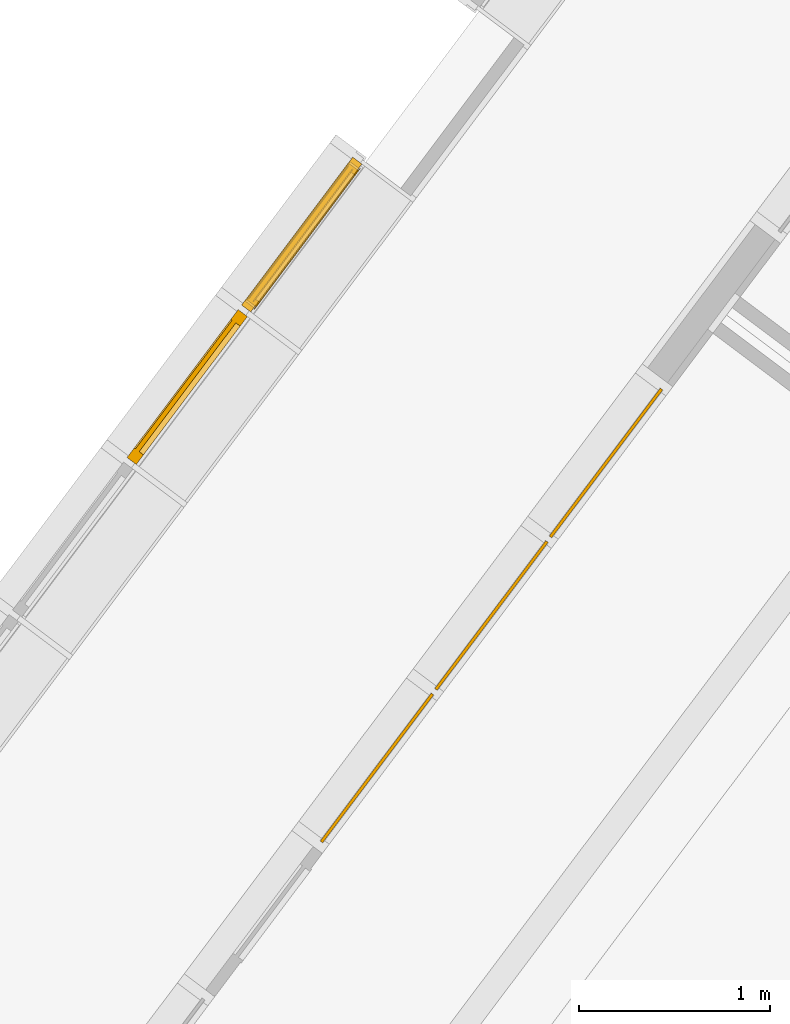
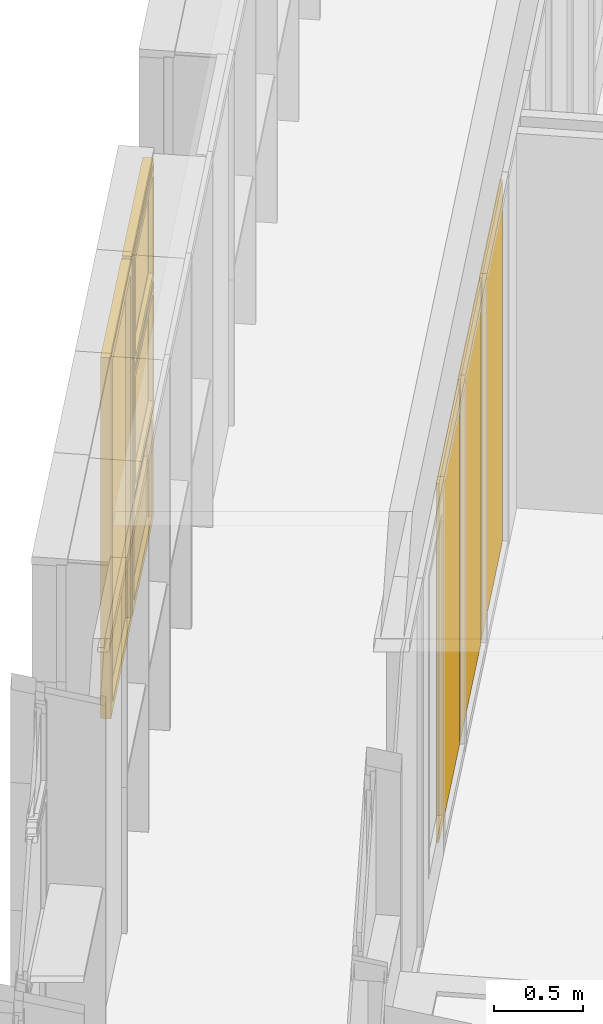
# One storey, part 199 of 243: 7 windows, 2 elements without a shape of their own.
"""IFC2X3 building model written with IfcOpenShell, lengths in metres."""

from ifc_helpers import new_model, entity, si_unit, converted_unit, derived_unit, direction, frame, origin, origin_2d_with_axis, place, context, subcontext, project, spatial, rectangle, extrude, faceted_brep, source, transform, mapped, material, material_list, type_object, type_shapes, element, aggregate, save


model = new_model("IFC2X3")

# Units and contexts
model_context = context("Model", 3, precision=1e-05, world=origin(), true_north=direction((6.123031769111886e-17, 1.0)))
body_context = subcontext(model_context, "Body", "Model", "MODEL_VIEW")
ifc_project = project(units=[si_unit("LENGTHUNIT", "METRE"), si_unit("AREAUNIT", "SQUARE_METRE"), si_unit("VOLUMEUNIT", "CUBIC_METRE"), converted_unit("PLANEANGLEUNIT", "DEGREE", entity("IfcRatioMeasure", 0.017453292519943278), si_unit("PLANEANGLEUNIT", "RADIAN"), dimensions=[0, 0, 0, 0, 0, 0, 0]), si_unit("MASSUNIT", "GRAM", prefix="KILO"), derived_unit("MASSDENSITYUNIT", [(si_unit("MASSUNIT", "GRAM", prefix="KILO"), 1), (si_unit("LENGTHUNIT", "METRE"), -3)]), derived_unit("IONCONCENTRATIONUNIT", [(si_unit("MASSUNIT", "GRAM", prefix="KILO"), 1), (si_unit("LENGTHUNIT", "METRE"), -3)]), derived_unit("MOMENTOFINERTIAUNIT", [(si_unit("LENGTHUNIT", "METRE"), 4)]), si_unit("TIMEUNIT", "SECOND"), si_unit("FREQUENCYUNIT", "HERTZ"), si_unit("THERMODYNAMICTEMPERATUREUNIT", "DEGREE_CELSIUS"), derived_unit("THERMALTRANSMITTANCEUNIT", [(si_unit("MASSUNIT", "GRAM", prefix="KILO"), 1), (si_unit("THERMODYNAMICTEMPERATUREUNIT", "KELVIN"), -1), (si_unit("TIMEUNIT", "SECOND"), -3)]), derived_unit("THERMALCONDUCTANCEUNIT", [(si_unit("MASSUNIT", "GRAM", prefix="KILO"), 1), (si_unit("THERMODYNAMICTEMPERATUREUNIT", "KELVIN"), -1), (si_unit("TIMEUNIT", "SECOND"), -3), (si_unit("LENGTHUNIT", "METRE"), 1)]), derived_unit("VOLUMETRICFLOWRATEUNIT", [(si_unit("LENGTHUNIT", "METRE"), 3), (si_unit("TIMEUNIT", "SECOND"), -1)]), derived_unit("MASSFLOWRATEUNIT", [(si_unit("MASSUNIT", "GRAM", prefix="KILO"), 1), (si_unit("TIMEUNIT", "SECOND"), -1)]), derived_unit("ROTATIONALFREQUENCYUNIT", [(si_unit("TIMEUNIT", "SECOND"), -1)]), si_unit("ELECTRICCURRENTUNIT", "AMPERE"), si_unit("ELECTRICVOLTAGEUNIT", "VOLT"), si_unit("POWERUNIT", "WATT"), si_unit("FORCEUNIT", "NEWTON", prefix="KILO"), si_unit("ILLUMINANCEUNIT", "LUX"), si_unit("LUMINOUSFLUXUNIT", "LUMEN"), si_unit("LUMINOUSINTENSITYUNIT", "CANDELA"), derived_unit("USERDEFINED", [(si_unit("MASSUNIT", "GRAM", prefix="KILO"), -1), (si_unit("LENGTHUNIT", "METRE"), -2), (si_unit("TIMEUNIT", "SECOND"), 3), (si_unit("LUMINOUSFLUXUNIT", "LUMEN"), 1)]), derived_unit("USERDEFINED", [(si_unit("MASSUNIT", "GRAM", prefix="KILO"), 1), (si_unit("TIMEUNIT", "SECOND"), -3), (si_unit("LENGTHUNIT", "METRE"), 3), (si_unit("ELECTRICCURRENTUNIT", "AMPERE"), -2)]), derived_unit("SOUNDPOWERUNIT", [(si_unit("MASSUNIT", "GRAM", prefix="KILO"), 1), (si_unit("TIMEUNIT", "SECOND"), -3), (si_unit("LENGTHUNIT", "METRE"), 2)]), derived_unit("SOUNDPRESSUREUNIT", [(si_unit("MASSUNIT", "GRAM", prefix="KILO"), 1), (si_unit("LENGTHUNIT", "METRE"), -1), (si_unit("TIMEUNIT", "SECOND"), -2)]), derived_unit("LINEARVELOCITYUNIT", [(si_unit("LENGTHUNIT", "METRE"), 1), (si_unit("TIMEUNIT", "SECOND"), -1)]), si_unit("PRESSUREUNIT", "PASCAL"), derived_unit("USERDEFINED", [(si_unit("MASSUNIT", "GRAM", prefix="KILO"), 1), (si_unit("LENGTHUNIT", "METRE"), -2), (si_unit("TIMEUNIT", "SECOND"), -2)]), derived_unit("LINEARFORCEUNIT", [(si_unit("MASSUNIT", "GRAM", prefix="KILO"), 1), (si_unit("TIMEUNIT", "SECOND"), -2)]), derived_unit("PLANARFORCEUNIT", [(si_unit("MASSUNIT", "GRAM", prefix="KILO"), 1), (si_unit("LENGTHUNIT", "METRE"), -1), (si_unit("TIMEUNIT", "SECOND"), -2)]), derived_unit("SPECIFICHEATCAPACITYUNIT", [(si_unit("THERMODYNAMICTEMPERATUREUNIT", "KELVIN"), -1), (si_unit("LENGTHUNIT", "METRE"), 2), (si_unit("TIMEUNIT", "SECOND"), -2)]), derived_unit("HEATINGVALUEUNIT", [(si_unit("LENGTHUNIT", "METRE"), 2), (si_unit("TIMEUNIT", "SECOND"), -2)]), derived_unit("VAPORPERMEABILITYUNIT", [(si_unit("LENGTHUNIT", "METRE"), -1), (si_unit("TIMEUNIT", "SECOND"), 1)]), derived_unit("DYNAMICVISCOSITYUNIT", [(si_unit("MASSUNIT", "GRAM", prefix="KILO"), 1), (si_unit("TIMEUNIT", "SECOND"), -1), (si_unit("LENGTHUNIT", "METRE"), -1)]), derived_unit("THERMALEXPANSIONCOEFFICIENTUNIT", [(si_unit("THERMODYNAMICTEMPERATUREUNIT", "KELVIN"), -1)]), derived_unit("MODULUSOFELASTICITYUNIT", [(si_unit("MASSUNIT", "GRAM", prefix="KILO"), 1), (si_unit("LENGTHUNIT", "METRE"), -1), (si_unit("TIMEUNIT", "SECOND"), -2)]), derived_unit("ISOTHERMALMOISTURECAPACITYUNIT", [(si_unit("LENGTHUNIT", "METRE"), 3), (si_unit("MASSUNIT", "GRAM", prefix="KILO"), -1)]), derived_unit("MOISTUREDIFFUSIVITYUNIT", [(si_unit("TIMEUNIT", "SECOND"), -1), (si_unit("LENGTHUNIT", "METRE"), 2)])], contexts=[model_context])

# Site, building, storey
site_placement = place(None, frame((0.0, 0.0, 235.0), z_axis=(0.0, 0.0, 1.0), x_axis=(-0.7996477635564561, 0.6004693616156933, 0.0)))
site = spatial("IfcSite", under=ifc_project, at=site_placement, Name="Default", CompositionType="ELEMENT")
building_placement = place(site_placement, origin())
building = spatial("IfcBuilding", under=site, at=building_placement, CompositionType="ELEMENT")
storey_placement = place(building_placement, origin())
storey = spatial("IfcBuildingStorey", under=building, at=storey_placement, Name="P0- Escola", CompositionType="ELEMENT", Elevation=0.0)

# Curtain wall, windows
curtain_wall_type_1 = type_object("IfcCurtainWallType", Name="Muro cortina:MC- INT- a1", PredefinedType="NOTDEFINED")
curtain_wall_1_placement = place(storey_placement, origin())
curtain_wall_1 = element("IfcCurtainWall", 1, at=curtain_wall_1_placement, inside=storey, type_object=curtain_wall_type_1, Name="Muro cortina:MC- INT- a1", ObjectType="Muro cortina:MC- INT- a1")
ifc_material_1 = material(Name="_Vidre")
window_style_1 = type_object("IfcWindowStyle", Name="MC- Fusta- vidre fix:MC- Fusta- vidre fix", ConstructionType="NOTDEFINED", OperationType="NOTDEFINED", ParameterTakesPrecedence=False, Sizeable=False, material=ifc_material_1)
shared_shape_1 = source(origin(), body_context, "Body", "SweptSolid", [
    extrude(rectangle(XDim=0.9699999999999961, YDim=0.015999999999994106, at=origin_2d_with_axis()), frame((0.0, 0.0, 0.0), z_axis=(0.0, 0.0, 1.0), x_axis=(-1.0, 0.0, 0.0)), (0.0, 0.0, 1.0), 2.475),
])
type_shapes(window_style_1, [shared_shape_1])
window_1_placement = place(curtain_wall_1_placement, frame((72.720147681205, -27.915189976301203, 0.045000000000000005), z_axis=(0.0, 0.0, 1.0), x_axis=(0.0, -1.0, 0.0)))
window_1 = element("IfcWindow", 2, at=window_1_placement, type_object=window_style_1, material=ifc_material_1, Name="MC- Fusta- vidre fix:MC- Fusta- vidre fix", ObjectType="MC- Fusta- vidre fix:MC- Fusta- vidre fix", OverallHeight=2.475, OverallWidth=0.9699999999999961, context=body_context, shape_type="MappedRepresentation", body=[
    mapped(shared_shape_1, transform((0.0, 0.0, 0.0), scale=1.0)),
])
window_2_placement = place(curtain_wall_1_placement, frame((72.720147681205, -28.915189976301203, 0.045000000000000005), z_axis=(0.0, 0.0, 1.0), x_axis=(0.0, -1.0, 0.0)))
window_2 = element("IfcWindow", 3, at=window_2_placement, type_object=window_style_1, material=ifc_material_1, Name="MC- Fusta- vidre fix:MC- Fusta- vidre fix", ObjectType="MC- Fusta- vidre fix:MC- Fusta- vidre fix", OverallHeight=2.475, OverallWidth=0.9699999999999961, context=body_context, shape_type="MappedRepresentation", body=[
    mapped(shared_shape_1, transform((0.0, 0.0, 0.0), scale=1.0)),
])
window_style_2 = type_object("IfcWindowStyle", Name="MC- Fusta- vidre fix:MC- Fusta- vidre fix", ConstructionType="NOTDEFINED", OperationType="NOTDEFINED", ParameterTakesPrecedence=False, Sizeable=False, material=ifc_material_1)
shared_shape_2 = source(origin(), body_context, "Body", "SweptSolid", [
    extrude(rectangle(XDim=0.9699999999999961, YDim=0.015999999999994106, at=origin_2d_with_axis()), frame((0.0, 0.0, 0.0), z_axis=(0.0, 0.0, 1.0), x_axis=(-1.0, 0.0, 0.0)), (0.0, 0.0, 1.0), 2.46),
])
type_shapes(window_style_2, [shared_shape_2])
window_3_placement = place(curtain_wall_1_placement, frame((72.720147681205, -26.915189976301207, 0.045000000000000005), z_axis=(0.0, 0.0, 1.0), x_axis=(0.0, -1.0, 0.0)))
window_3 = element("IfcWindow", 4, at=window_3_placement, type_object=window_style_2, material=ifc_material_1, Name="MC- Fusta- vidre fix:MC- Fusta- vidre fix", ObjectType="MC- Fusta- vidre fix:MC- Fusta- vidre fix", OverallHeight=2.46, OverallWidth=0.9699999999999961, context=body_context, shape_type="MappedRepresentation", body=[
    mapped(shared_shape_2, transform((0.0, 0.0, 0.0), scale=1.0)),
])
aggregate(curtain_wall_1, [window_3, window_1, window_2])

curtain_wall_type_2 = type_object("IfcCurtainWallType", Name="Muro cortina:MC- EXT- MC5", PredefinedType="NOTDEFINED")
curtain_wall_2_placement = place(storey_placement, origin())
curtain_wall_2 = element("IfcCurtainWall", 5, at=curtain_wall_2_placement, inside=storey, type_object=curtain_wall_type_2, Name="Muro cortina:MC- EXT- MC5", ObjectType="Muro cortina:MC- EXT- MC5")
ifc_material_2 = material(Name="_Alumini- T1- Perfil")
ifc_material_list = material_list([ifc_material_1, ifc_material_2])
window_style_3 = type_object("IfcWindowStyle", Name="MC- Alu- Conjunt vidre fix- 62x60 cm:MC- Alu- Conjunt vidre fix- 62x60 cm", ConstructionType="NOTDEFINED", OperationType="NOTDEFINED", ParameterTakesPrecedence=False, Sizeable=False, material=ifc_material_list)
shared_shape_3 = source(origin(), body_context, "Body", "Brep", [
    faceted_brep([(-0.43619328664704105, -0.007600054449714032, 0.048806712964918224), (0.43619328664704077, -0.007600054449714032, 0.048806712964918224), (0.43619328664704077, -0.03160022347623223, 0.048806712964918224), (-0.43619328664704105, -0.03160022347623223, 0.048806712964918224), (-0.43619328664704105, -0.007600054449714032, 2.422449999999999), (0.43619328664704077, -0.007600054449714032, 2.422449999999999), (0.43619328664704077, -0.03160022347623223, 2.422449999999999), (-0.43619328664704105, -0.03160022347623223, 2.422449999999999)], [[[0, 1, 2, 3]], [[4, 5, 1, 0]], [[5, 6, 2, 1]], [[6, 7, 3, 2]], [[7, 4, 0, 3]], [[4, 7, 6, 5]]]),
    faceted_brep([(-0.4849999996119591, -0.05999999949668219, 2.471449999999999), (-0.4849999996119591, 0.0, 2.471449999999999), (-0.4849999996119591, 0.0, 0.0), (-0.48499999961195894, -0.05999999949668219, 0.0), (-0.4221931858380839, 0.0, 2.408643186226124), (-0.4221931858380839, 0.0, 0.06280681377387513), (0.42219318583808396, 0.0, 0.06280681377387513), (0.422193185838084, 0.0, 2.408643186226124), (0.4849999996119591, 0.0, 2.471449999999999), (0.4849999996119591, 0.0, 0.0), (0.48499999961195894, -0.05999999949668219, 0.0), (0.4849999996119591, -0.05999999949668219, 2.471449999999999), (0.42219603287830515, -0.05999999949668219, 2.408646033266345), (0.42219603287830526, -0.05999999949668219, 0.06280396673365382), (-0.42219603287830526, -0.05999999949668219, 0.06280396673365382), (-0.42219603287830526, -0.05999999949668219, 2.4086460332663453), (-0.42219603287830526, -0.03160022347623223, 2.4086460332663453), (-0.4221960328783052, -0.03160022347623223, 0.06280396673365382), (0.4221960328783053, -0.03160022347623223, 0.06280396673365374), (0.42219603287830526, -0.03160022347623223, 2.4086460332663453), (0.43619328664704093, -0.03160022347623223, 2.422643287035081), (0.43619328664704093, -0.03160022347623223, 0.048806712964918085), (-0.4361932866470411, -0.03160022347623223, 0.04880671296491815), (-0.43619328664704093, -0.03160022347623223, 2.422643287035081), (-0.43619328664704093, -0.007600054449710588, 2.422643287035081), (-0.4361932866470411, -0.007600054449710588, 0.04880671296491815), (0.43619328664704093, -0.007600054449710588, 0.048806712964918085), (0.43619328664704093, -0.007600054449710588, 2.422643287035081), (0.42219318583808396, -0.007600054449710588, 2.408643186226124), (0.42219318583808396, -0.007600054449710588, 0.06280681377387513), (-0.42219318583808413, -0.007600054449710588, 0.06280681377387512), (-0.4221931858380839, -0.007600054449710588, 2.408643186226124)], [[[0, 1, 2, 3]], [[4, 5, 6, 7], [8, 9, 2, 1]], [[3, 2, 9, 10]], [[0, 3, 10, 11], [12, 13, 14, 15]], [[16, 15, 14, 17]], [[17, 14, 13, 18]], [[16, 17, 18, 19], [20, 21, 22, 23]], [[24, 23, 22, 25]], [[25, 22, 21, 26]], [[24, 25, 26, 27], [28, 29, 30, 31]], [[4, 31, 30, 5]], [[5, 30, 29, 6]], [[10, 9, 8, 11]], [[18, 13, 12, 19]], [[26, 21, 20, 27]], [[6, 29, 28, 7]], [[11, 8, 1, 0]], [[19, 12, 15, 16]], [[27, 20, 23, 24]], [[7, 28, 31, 4]]], outer=[[True], [False, True], [True], [True, False], [True], [True], [False, True], [True], [True], [True, False], [True], [True], [True], [True], [True], [True], [True], [True], [True], [True]]),
])
type_shapes(window_style_3, [shared_shape_3])
window_4_placement = place(curtain_wall_2_placement, frame((74.7451476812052, -27.915191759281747, 0.03229999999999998), z_axis=(0.0, 0.0, 1.0), x_axis=(0.0, -1.0, 0.0)))
window_4 = element("IfcWindow", 6, at=window_4_placement, type_object=window_style_3, material=ifc_material_list, Name="MC- Alu- Conjunt vidre fix- 62x60 cm:MC- Alu- Conjunt vidre fix- 62x60 cm", ObjectType="MC- Alu- Conjunt vidre fix- 62x60 cm:MC- Alu- Conjunt vidre fix- 62x60 cm", OverallHeight=2.471449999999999, OverallWidth=0.9699999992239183, context=body_context, shape_type="MappedRepresentation", body=[
    mapped(shared_shape_3, transform((0.0, 0.0, 0.0), scale=1.0)),
])
window_style_4 = type_object("IfcWindowStyle", Name="MC- Alu- Conjunt vidre fix- 62x60 cm:MC- Alu- Conjunt vidre fix- 62x60 cm", ConstructionType="NOTDEFINED", OperationType="NOTDEFINED", ParameterTakesPrecedence=False, Sizeable=False, material=ifc_material_list)
shared_shape_4 = source(origin(), body_context, "Body", "Brep", [
    faceted_brep([(-0.43619328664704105, -0.007600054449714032, 0.048806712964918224), (0.43619328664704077, -0.007600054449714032, 0.048806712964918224), (0.43619328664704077, -0.03160022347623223, 0.048806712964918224), (-0.43619328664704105, -0.03160022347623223, 0.048806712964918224), (-0.43619328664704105, -0.007600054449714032, 0.7387000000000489), (0.43619328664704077, -0.007600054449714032, 0.7387000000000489), (0.43619328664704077, -0.03160022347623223, 0.7387000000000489), (-0.43619328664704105, -0.03160022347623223, 0.7387000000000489)], [[[0, 1, 2, 3]], [[4, 5, 1, 0]], [[5, 6, 2, 1]], [[6, 7, 3, 2]], [[7, 4, 0, 3]], [[4, 7, 6, 5]]]),
    faceted_brep([(-0.4849999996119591, -0.05999999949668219, 0.7877000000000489), (-0.4849999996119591, 0.0, 0.7877000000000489), (-0.4849999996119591, 0.0, 0.0), (-0.4849999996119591, -0.05999999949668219, 0.0), (-0.422193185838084, 0.0, 0.7248931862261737), (-0.4221931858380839, 0.0, 0.06280681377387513), (0.42219318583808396, 0.0, 0.06280681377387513), (0.42219318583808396, 0.0, 0.7248931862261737), (0.4849999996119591, 0.0, 0.7877000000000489), (0.4849999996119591, 0.0, 0.0), (0.4849999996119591, -0.05999999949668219, 0.0), (0.4849999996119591, -0.05999999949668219, 0.7877000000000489), (0.4221960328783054, -0.05999999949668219, 0.7248960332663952), (0.4221960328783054, -0.05999999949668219, 0.0628039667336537), (-0.4221960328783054, -0.05999999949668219, 0.0628039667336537), (-0.4221960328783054, -0.05999999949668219, 0.7248960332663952), (-0.4221960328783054, -0.03160022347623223, 0.7248960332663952), (-0.4221960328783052, -0.03160022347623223, 0.06280396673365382), (0.4221960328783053, -0.03160022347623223, 0.06280396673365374), (0.42219603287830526, -0.03160022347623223, 0.7248960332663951), (0.43619328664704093, -0.03160022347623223, 0.7388932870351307), (0.43619328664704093, -0.03160022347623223, 0.048806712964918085), (-0.43619328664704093, -0.03160022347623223, 0.04880671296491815), (-0.43619328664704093, -0.03160022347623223, 0.7388932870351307), (-0.43619328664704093, -0.007600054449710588, 0.7388932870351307), (-0.43619328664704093, -0.007600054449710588, 0.04880671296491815), (0.43619328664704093, -0.007600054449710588, 0.048806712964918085), (0.43619328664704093, -0.007600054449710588, 0.7388932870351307), (0.42219318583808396, -0.007600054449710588, 0.7248931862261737), (0.42219318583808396, -0.007600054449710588, 0.06280681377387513), (-0.42219318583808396, -0.007600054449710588, 0.06280681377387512), (-0.42219318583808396, -0.007600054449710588, 0.7248931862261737)], [[[0, 1, 2, 3]], [[4, 5, 6, 7], [8, 9, 2, 1]], [[3, 2, 9, 10]], [[0, 3, 10, 11], [12, 13, 14, 15]], [[16, 15, 14, 17]], [[17, 14, 13, 18]], [[16, 17, 18, 19], [20, 21, 22, 23]], [[24, 23, 22, 25]], [[25, 22, 21, 26]], [[24, 25, 26, 27], [28, 29, 30, 31]], [[4, 31, 30, 5]], [[5, 30, 29, 6]], [[10, 9, 8, 11]], [[18, 13, 12, 19]], [[26, 21, 20, 27]], [[6, 29, 28, 7]], [[11, 8, 1, 0]], [[19, 12, 15, 16]], [[27, 20, 23, 24]], [[7, 28, 31, 4]]], outer=[[True], [False, True], [True], [True, False], [True], [True], [False, True], [True], [True], [True, False], [True], [True], [True], [True], [True], [True], [True], [True], [True], [True]]),
])
type_shapes(window_style_4, [shared_shape_4])
window_5_placement = place(curtain_wall_2_placement, frame((74.74514768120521, -28.915191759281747, 0.03229999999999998), z_axis=(0.0, 0.0, 1.0), x_axis=(0.0, -1.0, 0.0)))
window_5 = element("IfcWindow", 7, at=window_5_placement, type_object=window_style_4, material=ifc_material_list, Name="MC- Alu- Conjunt vidre fix- 62x60 cm:MC- Alu- Conjunt vidre fix- 62x60 cm", ObjectType="MC- Alu- Conjunt vidre fix- 62x60 cm:MC- Alu- Conjunt vidre fix- 62x60 cm", OverallHeight=0.7877000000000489, OverallWidth=0.9699999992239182, context=body_context, shape_type="MappedRepresentation", body=[
    mapped(shared_shape_4, transform((0.0, 0.0, 0.0), scale=1.0)),
])
window_style_5 = type_object("IfcWindowStyle", Name="MC- Alu- Conjunt finestra basculant- 68x68 cm:MC- Alu- Conjunt finestra basculant- 68x68 cm", ConstructionType="NOTDEFINED", OperationType="NOTDEFINED", ParameterTakesPrecedence=False, Sizeable=False, material=ifc_material_list)
shared_shape_5 = source(origin(), body_context, "Body", "Brep", [
    faceted_brep([(-0.43291170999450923, -0.03559830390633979, 0.051999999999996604), (-0.43291170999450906, -0.011598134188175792, 0.051999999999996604), (0.43291170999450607, -0.011598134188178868, 0.051999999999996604), (0.43291170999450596, -0.03559830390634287, 0.051999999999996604), (-0.43291170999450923, -0.03559830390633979, 0.8228027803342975), (-0.4329117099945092, -0.011598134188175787, 0.8228027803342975), (0.43291170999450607, -0.011598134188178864, 0.8228027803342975), (0.43291170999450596, -0.03559830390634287, 0.8228027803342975)], [[[0, 1, 2, 3]], [[4, 5, 1, 0]], [[5, 6, 2, 1]], [[6, 7, 3, 2]], [[7, 4, 0, 3]], [[4, 7, 6, 5]]]),
    faceted_brep([(0.4172108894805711, -0.009998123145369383, 0.8071019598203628), (0.4172108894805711, -0.007998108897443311, 0.8071019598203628), (0.4172108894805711, -0.007998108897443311, 0.06789804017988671), (0.4172108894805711, -0.009998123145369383, 0.06789804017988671), (0.44610892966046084, -0.007998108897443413, 0.8360000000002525), (0.44610892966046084, -0.007998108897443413, 0.03899999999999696), (-0.44610892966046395, -0.007998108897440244, 0.03899999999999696), (-0.44610892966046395, -0.007998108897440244, 0.8360000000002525), (-0.4172108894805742, -0.007998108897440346, 0.8071019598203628), (-0.4172108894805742, -0.007998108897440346, 0.06789804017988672), (-0.4172108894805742, -0.009998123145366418, 0.06789804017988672), (-0.4172108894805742, -0.009998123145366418, 0.8071019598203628), (-0.4329117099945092, -0.00999812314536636, 0.8228027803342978), (-0.4329117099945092, -0.009998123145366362, 0.05219721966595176), (0.43291170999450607, -0.009998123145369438, 0.052197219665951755), (0.43291170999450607, -0.009998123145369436, 0.8228027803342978), (0.4329117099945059, -0.04079986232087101, 0.8228027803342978), (0.4329117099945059, -0.04079986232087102, 0.052197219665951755), (-0.4329117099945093, -0.04079986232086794, 0.05219721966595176), (-0.4329117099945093, -0.04079986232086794, 0.8228027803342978), (-0.41721088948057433, -0.040799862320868, 0.8071019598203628), (-0.41721088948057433, -0.040799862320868, 0.06789804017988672), (0.41721088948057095, -0.04079986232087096, 0.06789804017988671), (0.41721088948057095, -0.04079986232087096, 0.8071019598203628), (0.41721088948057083, -0.06800005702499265, 0.8071019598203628), (0.4172108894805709, -0.06800005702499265, 0.06789804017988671), (-0.4172108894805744, -0.0680000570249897, 0.06789804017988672), (-0.4172108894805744, -0.0680000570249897, 0.8071019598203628), (-0.4636128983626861, -0.06800005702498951, 0.8535039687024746), (-0.4636128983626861, -0.06800005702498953, 0.021496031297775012), (0.4636128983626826, -0.06800005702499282, 0.021496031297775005), (0.4636128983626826, -0.06800005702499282, 0.8535039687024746), (0.4636128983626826, -0.0645000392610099, 0.8535039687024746), (0.4636128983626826, -0.0645000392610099, 0.021496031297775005), (-0.4636128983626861, -0.06450003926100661, 0.021496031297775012), (-0.4636128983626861, -0.06450003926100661, 0.8535039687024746), (-0.44610892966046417, -0.06450003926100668, 0.8360000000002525), (-0.44610892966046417, -0.06450003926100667, 0.03899999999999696), (0.4461089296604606, -0.06450003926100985, 0.038999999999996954), (0.4461089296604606, -0.06450003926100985, 0.8360000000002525)], [[[0, 1, 2, 3]], [[4, 5, 6, 7], [8, 9, 2, 1]], [[3, 2, 9, 10]], [[0, 3, 10, 11], [12, 13, 14, 15]], [[16, 15, 14, 17]], [[17, 14, 13, 18]], [[16, 17, 18, 19], [20, 21, 22, 23]], [[24, 23, 22, 25]], [[25, 22, 21, 26]], [[24, 25, 26, 27], [28, 29, 30, 31]], [[32, 31, 30, 33]], [[33, 30, 29, 34]], [[32, 33, 34, 35], [36, 37, 38, 39]], [[4, 39, 38, 5]], [[5, 38, 37, 6]], [[10, 9, 8, 11]], [[18, 13, 12, 19]], [[26, 21, 20, 27]], [[34, 29, 28, 35]], [[6, 37, 36, 7]], [[11, 8, 1, 0]], [[19, 12, 15, 16]], [[27, 20, 23, 24]], [[35, 28, 31, 32]], [[7, 36, 39, 4]]], outer=[[True], [True, False], [True], [False, True], [True], [True], [True, False], [True], [True], [False, True], [True], [True], [True, False], [True], [True], [True], [True], [True], [True], [True], [True], [True], [True], [True], [True]]),
    faceted_brep([(-0.42219318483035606, 0.0, 0.8121931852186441), (-0.42219318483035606, -0.0040000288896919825, 0.8121931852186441), (-0.422193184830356, -0.0040000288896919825, 0.06280681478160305), (-0.42219318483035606, 0.0, 0.06280681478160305), (-0.4575998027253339, -0.0040000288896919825, 0.847599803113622), (-0.4575998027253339, -0.0040000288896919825, 0.027400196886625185), (0.4575998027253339, -0.0040000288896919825, 0.027400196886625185), (0.4575998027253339, -0.0040000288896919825, 0.847599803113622), (0.422193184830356, -0.0040000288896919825, 0.812193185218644), (0.42219318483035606, -0.0040000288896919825, 0.06280681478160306), (0.42219318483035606, 0.0, 0.06280681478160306), (0.42219318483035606, 0.0, 0.8121931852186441), (0.4849999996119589, 0.0, 0.8750000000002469), (0.48499999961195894, 0.0, 0.0), (-0.4849999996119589, 0.0, 0.0), (-0.48499999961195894, 0.0, 0.8750000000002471), (-0.48499999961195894, -0.05999999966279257, 0.8750000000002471), (-0.48499999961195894, -0.05999999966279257, 0.0), (0.48499999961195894, -0.05999999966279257, 0.0), (0.48499999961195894, -0.05999999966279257, 0.8750000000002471), (0.45759980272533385, -0.05999999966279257, 0.8475998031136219), (0.4575998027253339, -0.05999999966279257, 0.027400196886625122), (-0.45759980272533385, -0.05999999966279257, 0.027400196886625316), (-0.4575998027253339, -0.05999999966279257, 0.847599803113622)], [[[0, 1, 2, 3]], [[4, 5, 6, 7], [8, 9, 2, 1]], [[3, 2, 9, 10]], [[0, 3, 10, 11], [12, 13, 14, 15]], [[16, 15, 14, 17]], [[17, 14, 13, 18]], [[16, 17, 18, 19], [20, 21, 22, 23]], [[4, 23, 22, 5]], [[5, 22, 21, 6]], [[10, 9, 8, 11]], [[18, 13, 12, 19]], [[6, 21, 20, 7]], [[11, 8, 1, 0]], [[19, 12, 15, 16]], [[7, 20, 23, 4]]], outer=[[True], [True, False], [True], [False, True], [True], [True], [True, False], [True], [True], [True], [True], [True], [True], [True], [True]]),
])
type_shapes(window_style_5, [shared_shape_5])
window_6_placement = place(curtain_wall_2_placement, frame((74.74514768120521, -28.915191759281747, 0.8200000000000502), z_axis=(0.0, 0.0, 1.0), x_axis=(0.0, -1.0, 0.0)))
window_6 = element("IfcWindow", 8, at=window_6_placement, type_object=window_style_5, material=ifc_material_list, Name="MC- Alu- Conjunt finestra basculant- 68x68 cm:MC- Alu- Conjunt finestra basculant- 68x68 cm", ObjectType="MC- Alu- Conjunt finestra basculant- 68x68 cm:MC- Alu- Conjunt finestra basculant- 68x68 cm", OverallHeight=0.8750000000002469, OverallWidth=0.9699999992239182, context=body_context, shape_type="MappedRepresentation", body=[
    mapped(shared_shape_5, transform((0.0, 0.0, 0.0), scale=1.0)),
])
window_style_6 = type_object("IfcWindowStyle", Name="MC- Alu- Conjunt finestra basculant- 68x68 cm:MC- Alu- Conjunt finestra basculant- 68x68 cm", ConstructionType="NOTDEFINED", OperationType="NOTDEFINED", ParameterTakesPrecedence=False, Sizeable=False, material=ifc_material_list)
shared_shape_6 = source(origin(), body_context, "Body", "Brep", [
    faceted_brep([(-0.43291170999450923, -0.03559830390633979, 0.051999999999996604), (-0.43291170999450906, -0.011598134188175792, 0.051999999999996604), (0.43291170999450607, -0.011598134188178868, 0.051999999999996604), (0.43291170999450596, -0.03559830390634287, 0.051999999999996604), (-0.43291170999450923, -0.03559830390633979, 0.7565527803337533), (-0.4329117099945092, -0.011598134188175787, 0.7565527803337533), (0.43291170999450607, -0.011598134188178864, 0.7565527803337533), (0.43291170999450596, -0.03559830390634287, 0.7565527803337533)], [[[0, 1, 2, 3]], [[4, 5, 1, 0]], [[5, 6, 2, 1]], [[6, 7, 3, 2]], [[7, 4, 0, 3]], [[4, 7, 6, 5]]]),
    faceted_brep([(0.4172108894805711, -0.009998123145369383, 0.7408519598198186), (0.4172108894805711, -0.007998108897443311, 0.7408519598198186), (0.4172108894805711, -0.007998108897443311, 0.06789804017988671), (0.4172108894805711, -0.009998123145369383, 0.06789804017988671), (0.44610892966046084, -0.007998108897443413, 0.7697499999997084), (0.44610892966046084, -0.007998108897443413, 0.03899999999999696), (-0.44610892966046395, -0.007998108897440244, 0.03899999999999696), (-0.44610892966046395, -0.007998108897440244, 0.7697499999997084), (-0.4172108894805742, -0.007998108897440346, 0.7408519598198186), (-0.4172108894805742, -0.007998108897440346, 0.06789804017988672), (-0.4172108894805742, -0.009998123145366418, 0.06789804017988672), (-0.4172108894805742, -0.009998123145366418, 0.7408519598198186), (-0.4329117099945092, -0.00999812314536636, 0.7565527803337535), (-0.4329117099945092, -0.009998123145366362, 0.05219721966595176), (0.43291170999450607, -0.009998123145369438, 0.052197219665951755), (0.43291170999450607, -0.009998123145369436, 0.7565527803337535), (0.4329117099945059, -0.04079986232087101, 0.7565527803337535), (0.4329117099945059, -0.04079986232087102, 0.052197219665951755), (-0.4329117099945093, -0.04079986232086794, 0.05219721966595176), (-0.4329117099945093, -0.04079986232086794, 0.7565527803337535), (-0.41721088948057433, -0.040799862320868, 0.7408519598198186), (-0.41721088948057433, -0.040799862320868, 0.06789804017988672), (0.41721088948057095, -0.04079986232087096, 0.06789804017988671), (0.41721088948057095, -0.04079986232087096, 0.7408519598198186), (0.41721088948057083, -0.06800005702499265, 0.7408519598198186), (0.4172108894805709, -0.06800005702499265, 0.06789804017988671), (-0.4172108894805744, -0.0680000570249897, 0.06789804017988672), (-0.4172108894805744, -0.0680000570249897, 0.7408519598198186), (-0.4636128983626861, -0.06800005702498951, 0.7872539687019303), (-0.4636128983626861, -0.06800005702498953, 0.021496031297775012), (0.4636128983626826, -0.06800005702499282, 0.021496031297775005), (0.4636128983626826, -0.06800005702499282, 0.7872539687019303), (0.4636128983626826, -0.0645000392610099, 0.7872539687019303), (0.4636128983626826, -0.0645000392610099, 0.021496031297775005), (-0.4636128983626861, -0.06450003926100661, 0.021496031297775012), (-0.4636128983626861, -0.06450003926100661, 0.7872539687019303), (-0.44610892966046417, -0.06450003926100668, 0.7697499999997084), (-0.44610892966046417, -0.06450003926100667, 0.03899999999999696), (0.4461089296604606, -0.06450003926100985, 0.038999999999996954), (0.4461089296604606, -0.06450003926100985, 0.7697499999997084)], [[[0, 1, 2, 3]], [[4, 5, 6, 7], [8, 9, 2, 1]], [[3, 2, 9, 10]], [[0, 3, 10, 11], [12, 13, 14, 15]], [[16, 15, 14, 17]], [[17, 14, 13, 18]], [[16, 17, 18, 19], [20, 21, 22, 23]], [[24, 23, 22, 25]], [[25, 22, 21, 26]], [[24, 25, 26, 27], [28, 29, 30, 31]], [[32, 31, 30, 33]], [[33, 30, 29, 34]], [[32, 33, 34, 35], [36, 37, 38, 39]], [[4, 39, 38, 5]], [[5, 38, 37, 6]], [[10, 9, 8, 11]], [[18, 13, 12, 19]], [[26, 21, 20, 27]], [[34, 29, 28, 35]], [[6, 37, 36, 7]], [[11, 8, 1, 0]], [[19, 12, 15, 16]], [[27, 20, 23, 24]], [[35, 28, 31, 32]], [[7, 36, 39, 4]]], outer=[[True], [True, False], [True], [False, True], [True], [True], [True, False], [True], [True], [False, True], [True], [True], [True, False], [True], [True], [True], [True], [True], [True], [True], [True], [True], [True], [True], [True]]),
    faceted_brep([(-0.42219318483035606, 0.0, 0.7459431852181), (-0.42219318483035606, -0.0040000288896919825, 0.7459431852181), (-0.422193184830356, -0.0040000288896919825, 0.06280681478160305), (-0.42219318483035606, 0.0, 0.06280681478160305), (-0.4575998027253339, -0.0040000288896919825, 0.7813498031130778), (-0.4575998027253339, -0.0040000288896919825, 0.027400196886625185), (0.4575998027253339, -0.0040000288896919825, 0.027400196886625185), (0.4575998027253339, -0.0040000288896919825, 0.7813498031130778), (0.422193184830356, -0.0040000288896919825, 0.7459431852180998), (0.42219318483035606, -0.0040000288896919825, 0.06280681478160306), (0.42219318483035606, 0.0, 0.06280681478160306), (0.42219318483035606, 0.0, 0.7459431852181), (0.48499999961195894, 0.0, 0.8087499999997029), (0.48499999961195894, 0.0, 0.0), (-0.48499999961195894, 0.0, 0.0), (-0.48499999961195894, 0.0, 0.8087499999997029), (-0.48499999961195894, -0.05999999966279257, 0.8087499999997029), (-0.48499999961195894, -0.05999999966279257, 0.0), (0.48499999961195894, -0.05999999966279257, 0.0), (0.48499999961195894, -0.05999999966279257, 0.8087499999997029), (0.4575998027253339, -0.05999999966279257, 0.7813498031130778), (0.4575998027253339, -0.05999999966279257, 0.027400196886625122), (-0.4575998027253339, -0.05999999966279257, 0.02740019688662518), (-0.4575998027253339, -0.05999999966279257, 0.7813498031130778)], [[[0, 1, 2, 3]], [[4, 5, 6, 7], [8, 9, 2, 1]], [[3, 2, 9, 10]], [[0, 3, 10, 11], [12, 13, 14, 15]], [[16, 15, 14, 17]], [[17, 14, 13, 18]], [[16, 17, 18, 19], [20, 21, 22, 23]], [[4, 23, 22, 5]], [[5, 22, 21, 6]], [[10, 9, 8, 11]], [[18, 13, 12, 19]], [[6, 21, 20, 7]], [[11, 8, 1, 0]], [[19, 12, 15, 16]], [[7, 20, 23, 4]]], outer=[[True], [True, False], [True], [False, True], [True], [True], [True, False], [True], [True], [True], [True], [True], [True], [True], [True]]),
])
type_shapes(window_style_6, [shared_shape_6])
window_7_placement = place(curtain_wall_2_placement, frame((74.74514768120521, -28.91519175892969, 1.6950000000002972), z_axis=(0.0, 0.0, 1.0), x_axis=(0.0, -1.0, 0.0)))
window_7 = element("IfcWindow", 9, at=window_7_placement, type_object=window_style_6, material=ifc_material_list, Name="MC- Alu- Conjunt finestra basculant- 68x68 cm:MC- Alu- Conjunt finestra basculant- 68x68 cm", ObjectType="MC- Alu- Conjunt finestra basculant- 68x68 cm:MC- Alu- Conjunt finestra basculant- 68x68 cm", OverallHeight=0.8087499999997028, OverallWidth=0.9699999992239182, context=body_context, shape_type="MappedRepresentation", body=[
    mapped(shared_shape_6, transform((0.0, 0.0, 0.0), scale=1.0)),
])
aggregate(curtain_wall_2, [window_4, window_5, window_6, window_7])

save(model, "model.ifc")
